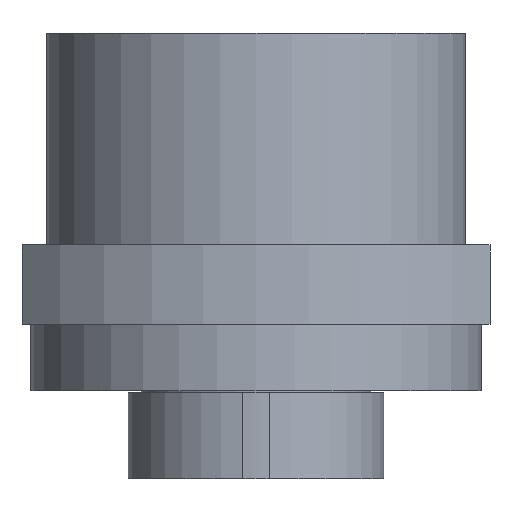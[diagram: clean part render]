
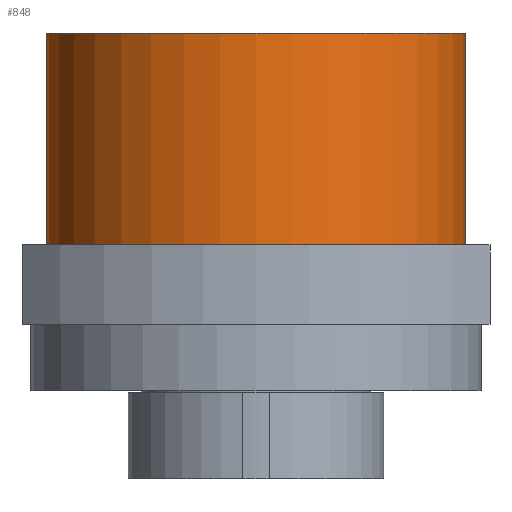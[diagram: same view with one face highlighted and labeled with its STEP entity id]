
A CAD part, front view. The second image highlights one B-rep face of the part: STEP entity #848.
In plain terms, the highlighted cylindrical face has radius 47.5 mm (diameter 95 mm), a full revolution.
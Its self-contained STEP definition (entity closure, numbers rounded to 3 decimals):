
#41=CYLINDRICAL_SURFACE($,#966,47.5);
#150=FACE_BOUND($,#312,.T.);
#219=FACE_OUTER_BOUND($,#311,.T.);
#311=EDGE_LOOP($,(#725));
#312=EDGE_LOOP($,(#726));
#398=CIRCLE($,#967,47.5);
#399=CIRCLE($,#968,47.5);
#474=VERTEX_POINT($,#1461);
#475=VERTEX_POINT($,#1463);
#566=EDGE_CURVE($,#474,#474,#398,.T.);
#567=EDGE_CURVE($,#475,#475,#399,.T.);
#725=ORIENTED_EDGE($,*,*,#566,.F.);
#726=ORIENTED_EDGE($,*,*,#567,.F.);
#848=ADVANCED_FACE($,(#219,#150),#41,.T.);
#966=AXIS2_PLACEMENT_3D($,#1460,#1220,#1221);
#967=AXIS2_PLACEMENT_3D($,#1462,#1222,#1223);
#968=AXIS2_PLACEMENT_3D($,#1464,#1224,#1225);
#1220=DIRECTION('center_axis',(0.,0.,1.));
#1221=DIRECTION('ref_axis',(-1.,0.,0.));
#1222=DIRECTION('center_axis',(0.,0.,1.));
#1223=DIRECTION('ref_axis',(-1.,0.,0.));
#1224=DIRECTION('center_axis',(0.,0.,-1.));
#1225=DIRECTION('ref_axis',(-1.,0.,0.));
#1460=CARTESIAN_POINT('Origin',(0.,0.,19.));
#1461=CARTESIAN_POINT('',(47.5,0.,67.));
#1462=CARTESIAN_POINT('Origin',(0.,0.,67.));
#1463=CARTESIAN_POINT('',(47.5,0.,19.));
#1464=CARTESIAN_POINT('Origin',(0.,0.,19.));
